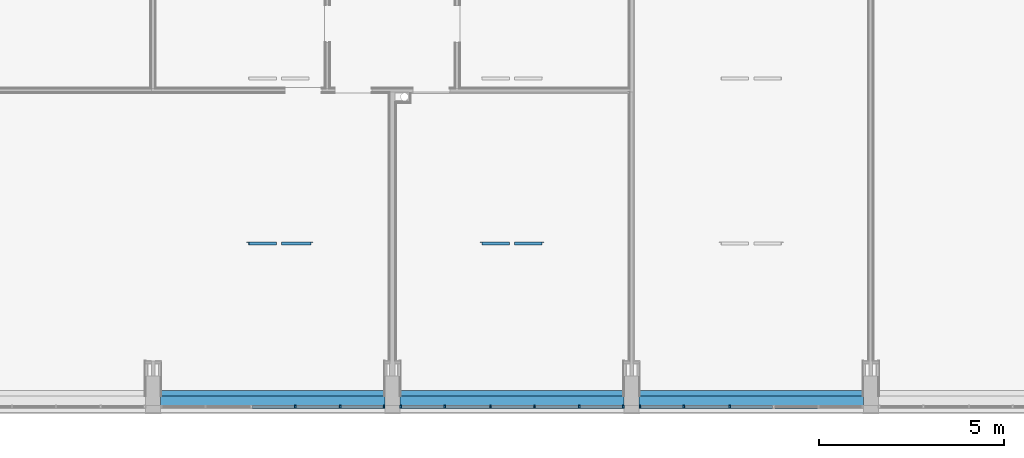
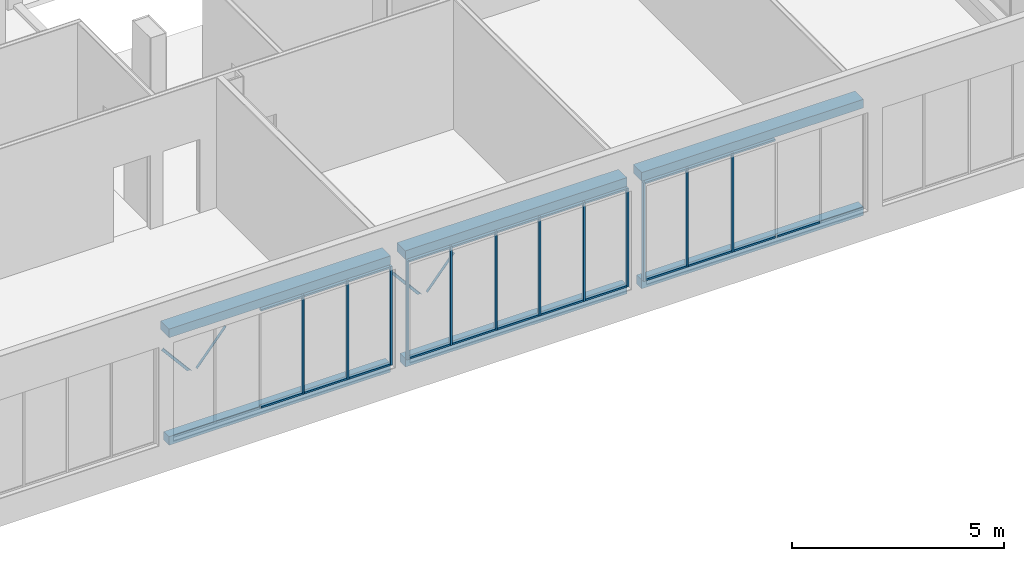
# One storey, part 7 of 29: 35 members, 10 beams, 3 elements without a shape of their own.
"""IFC2X3 building model written with IfcOpenShell, lengths in centimetres."""

from ifc_helpers import new_model, entity, si_unit, converted_unit, derived_unit, direction, frame, frame_2d, origin, origin_2d_with_axis, place, context, subcontext, project, spatial, polyline, circle_curve, parameter, trimmed, segment, composite_curve, rectangle, outline, extrude, clip, halfspace, source, transform, mapped, material, type_object, type_shapes, element, aggregate, save


model = new_model("IFC2X3")

# Units and contexts
model_context = context("Model", 3, precision=0.001, world=origin(), true_north=direction((6.12303176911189e-17, 1.0)))
body_context = subcontext(model_context, "Body", "Model", "MODEL_VIEW")
ifc_project = project(units=[si_unit("LENGTHUNIT", "METRE", prefix="CENTI"), si_unit("AREAUNIT", "SQUARE_METRE"), si_unit("VOLUMEUNIT", "CUBIC_METRE"), converted_unit("PLANEANGLEUNIT", "DEGREE", entity("IfcRatioMeasure", 0.0174532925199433), si_unit("PLANEANGLEUNIT", "RADIAN"), dimensions=[0, 0, 0, 0, 0, 0, 0]), si_unit("MASSUNIT", "GRAM", prefix="KILO"), derived_unit("MASSDENSITYUNIT", [(si_unit("MASSUNIT", "GRAM", prefix="KILO"), 1), (si_unit("LENGTHUNIT", "METRE"), -3)]), derived_unit("MOMENTOFINERTIAUNIT", [(si_unit("LENGTHUNIT", "METRE"), 4)]), si_unit("TIMEUNIT", "SECOND"), si_unit("FREQUENCYUNIT", "HERTZ"), si_unit("THERMODYNAMICTEMPERATUREUNIT", "DEGREE_CELSIUS"), derived_unit("THERMALTRANSMITTANCEUNIT", [(si_unit("MASSUNIT", "GRAM", prefix="KILO"), 1), (si_unit("THERMODYNAMICTEMPERATUREUNIT", "KELVIN"), -1), (si_unit("TIMEUNIT", "SECOND"), -3)]), derived_unit("VOLUMETRICFLOWRATEUNIT", [(si_unit("LENGTHUNIT", "METRE"), 3), (si_unit("TIMEUNIT", "SECOND"), -1)]), si_unit("ELECTRICCURRENTUNIT", "AMPERE"), si_unit("ELECTRICVOLTAGEUNIT", "VOLT"), si_unit("POWERUNIT", "WATT"), si_unit("FORCEUNIT", "NEWTON", prefix="KILO"), si_unit("ILLUMINANCEUNIT", "LUX"), si_unit("LUMINOUSFLUXUNIT", "LUMEN"), si_unit("LUMINOUSINTENSITYUNIT", "CANDELA"), derived_unit("USERDEFINED", [(si_unit("MASSUNIT", "GRAM", prefix="KILO"), -1), (si_unit("LENGTHUNIT", "METRE"), -2), (si_unit("TIMEUNIT", "SECOND"), 3), (si_unit("LUMINOUSFLUXUNIT", "LUMEN"), 1)]), derived_unit("LINEARVELOCITYUNIT", [(si_unit("LENGTHUNIT", "METRE"), 1), (si_unit("TIMEUNIT", "SECOND"), -1)]), si_unit("PRESSUREUNIT", "PASCAL"), derived_unit("USERDEFINED", [(si_unit("LENGTHUNIT", "METRE"), -2), (si_unit("MASSUNIT", "GRAM", prefix="KILO"), 1), (si_unit("TIMEUNIT", "SECOND"), -2)]), derived_unit("LINEARFORCEUNIT", [(si_unit("MASSUNIT", "GRAM", prefix="KILO"), 1), (si_unit("LENGTHUNIT", "METRE"), 1), (si_unit("TIMEUNIT", "SECOND"), -2), (si_unit("LENGTHUNIT", "METRE"), -1)]), derived_unit("PLANARFORCEUNIT", [(si_unit("MASSUNIT", "GRAM", prefix="KILO"), 1), (si_unit("LENGTHUNIT", "METRE"), 1), (si_unit("TIMEUNIT", "SECOND"), -2), (si_unit("LENGTHUNIT", "METRE"), -2)])], contexts=[model_context])

# Site, building, storey
site_placement = place(None, origin())
site = spatial("IfcSite", under=ifc_project, at=site_placement, Name="Default", CompositionType="ELEMENT")
building_placement = place(site_placement, origin())
building = spatial("IfcBuilding", under=site, at=building_placement, CompositionType="ELEMENT")
storey_placement = place(building_placement, frame((0.0, 0.0, 545.0)))
storey = spatial("IfcBuildingStorey", under=building, at=storey_placement, Name="Poziom 1K +5,45", CompositionType="ELEMENT", Elevation=544.999999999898)

# Beams
ifc_material_1 = material(Name="_Beton C30/37")
beam_type_1 = type_object("IfcBeamType", Name="Beton-belka prostokątna:BELKA 40x30", PredefinedType="NOTDEFINED")
beam_1_placement = place(storey_placement, frame((-1604.26510661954, 275.127657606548, 380.0)))
element("IfcBeam", 1, at=beam_1_placement, inside=storey, type_object=beam_type_1, material=ifc_material_1, Name="Beton-belka prostokątna:BELKA 40x30", ObjectType="Beton-belka prostokątna:BELKA 40x30", context=body_context, shape_type="SweptSolid", body=[
    extrude(rectangle(XDim=25.0000000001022, YDim=40.000000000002, at=frame_2d((0.0, 6.76791955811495e-13), x_axis=(1.0, 0.0))), frame((0.0, 0.0, -2.49999999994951), z_axis=(1.0, 0.0, 0.0), x_axis=(0.0, 0.0, -1.0)), (0.0, 0.0, 1.0), 605.000000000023),
])
beam_2_placement = place(storey_placement, frame((-959.265106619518, 275.127657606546, 380.0)))
element("IfcBeam", 2, at=beam_2_placement, inside=storey, type_object=beam_type_1, material=ifc_material_1, Name="Beton-belka prostokątna:BELKA 40x30", ObjectType="Beton-belka prostokątna:BELKA 40x30", context=body_context, shape_type="SweptSolid", body=[
    extrude(rectangle(XDim=25.0000000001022, YDim=40.0000000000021, at=frame_2d((0.0, 7.05213665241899e-13), x_axis=(1.0, 0.0))), frame((0.0, 0.0, -2.49999999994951), z_axis=(1.0, 0.0, 0.0), x_axis=(0.0, 0.0, -1.0)), (0.0, 0.0, 1.0), 604.999999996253),
])
beam_3_placement = place(storey_placement, frame((-314.265106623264, 275.127657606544, 380.0)))
element("IfcBeam", 3, at=beam_3_placement, inside=storey, type_object=beam_type_1, material=ifc_material_1, Name="Beton-belka prostokątna:BELKA 40x30", ObjectType="Beton-belka prostokątna:BELKA 40x30", context=body_context, shape_type="SweptSolid", body=[
    extrude(rectangle(XDim=25.0000000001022, YDim=40.0000000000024, at=frame_2d((0.0, 4.33431068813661e-13), x_axis=(1.0, 0.0))), frame((0.0, 0.0, -2.49999999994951), z_axis=(1.0, 0.0, 0.0), x_axis=(0.0, 0.0, -1.0)), (0.0, 0.0, 1.0), 605.000000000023),
])
beam_type_2 = type_object("IfcBeamType", Name="Beton-belka prostokątna:wieniec 25x25", PredefinedType="BEAM", material=ifc_material_1)
beam_4_placement = place(storey_placement, frame((-1604.26510661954, 267.627657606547, 0.0)))
element("IfcBeam", 4, at=beam_4_placement, inside=storey, type_object=beam_type_2, material=ifc_material_1, Name="Beton-belka prostokątna:wieniec 25x25", ObjectType="Beton-belka prostokątna:wieniec 25x25", context=body_context, shape_type="SweptSolid", body=[
    extrude(rectangle(XDim=24.9999999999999, YDim=25.0000000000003, at=frame_2d((0.0, 8.08242361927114e-14), x_axis=(1.0, 0.0))), frame((0.0, 0.0, 67.4999999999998), z_axis=(1.0, 0.0, 0.0), x_axis=(0.0, 0.0, -1.0)), (0.0, 0.0, 1.0), 604.999999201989),
])
beam_5_placement = place(storey_placement, frame((-959.265106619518, 267.627657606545, 0.0)))
element("IfcBeam", 5, at=beam_5_placement, inside=storey, type_object=beam_type_2, material=ifc_material_1, Name="Beton-belka prostokątna:wieniec 25x25", ObjectType="Beton-belka prostokątna:wieniec 25x25", context=body_context, shape_type="SweptSolid", body=[
    extrude(rectangle(XDim=24.9999999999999, YDim=25.0000000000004, at=frame_2d((0.0, 5.41788836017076e-14), x_axis=(1.0, 0.0))), frame((0.0, 0.0, 67.4999999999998), z_axis=(1.0, 0.0, 0.0), x_axis=(0.0, 0.0, -1.0)), (0.0, 0.0, 1.0), 604.999999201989),
])
beam_6_placement = place(storey_placement, frame((-314.265106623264, 267.627657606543, 0.0)))
element("IfcBeam", 6, at=beam_6_placement, inside=storey, type_object=beam_type_2, material=ifc_material_1, Name="Beton-belka prostokątna:wieniec 25x25", ObjectType="Beton-belka prostokątna:wieniec 25x25", context=body_context, shape_type="SweptSolid", body=[
    extrude(rectangle(XDim=24.9999999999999, YDim=25.0000000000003, at=frame_2d((0.0, 8.08242361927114e-14), x_axis=(1.0, 0.0))), frame((0.0, 0.0, 67.4999999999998), z_axis=(1.0, 0.0, 0.0), x_axis=(0.0, 0.0, -1.0)), (0.0, 0.0, 1.0), 604.999999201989),
])

# Curtain wall, members
curtain_wall_type = type_object("IfcCurtainWallType", PredefinedType="NOTDEFINED")
curtain_wall_1_placement = place(storey_placement, frame((0.0, 0.0, -545.0)))
curtain_wall_1 = element("IfcCurtainWall", 7, at=curtain_wall_1_placement, inside=storey, type_object=curtain_wall_type)
ifc_material_2 = material(Name="Aluminium")
member_type_1 = type_object("IfcMemberType", Name="Prostokątny szpros:50 x 80mm", PredefinedType="MULLION", material=ifc_material_2)
shared_shape_1 = source(origin(), body_context, "Body", "SweptSolid", [
    extrude(rectangle(XDim=8.0, YDim=5.0, at=origin_2d_with_axis()), frame((-2.5, 0.0, -113.500173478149), z_axis=(0.0, 0.0, 1.0), x_axis=(0.0, -1.0, 0.0)), (0.0, 0.0, 1.0), 113.500173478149),
])
type_shapes(member_type_1, [shared_shape_1])
member_1_placement = place(curtain_wall_1_placement, frame((-1004.26510741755, 251.127657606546, 910.0), z_axis=(1.0, 0.0, 0.0), x_axis=(0.0, 0.0, 1.0)))
member_1 = element("IfcMember", 8, at=member_1_placement, type_object=member_type_1, Name="Prostokątny szpros:50 x 80mm", ObjectType="Prostokątny szpros:50 x 80mm", context=body_context, shape_type="MappedRepresentation", body=[
    mapped(shared_shape_1, transform((0.0, 0.0, 0.0), scale=1.0)),
])
member_2_placement = place(curtain_wall_1_placement, frame((-1243.7622010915, 251.127657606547, 910.0), z_axis=(1.0, 0.0, 0.0), x_axis=(0.0, 0.0, 1.0)))
member_2 = element("IfcMember", 9, at=member_2_placement, type_object=member_type_1, Name="Prostokątny szpros:50 x 80mm", ObjectType="Prostokątny szpros:50 x 80mm", context=body_context, shape_type="MappedRepresentation", body=[
    mapped(shared_shape_1, transform((0.0, 0.0, 0.0), scale=1.0)),
])

curtain_wall_2_placement = place(storey_placement, frame((0.0, 0.0, -545.0)))
curtain_wall_2 = element("IfcCurtainWall", 10, at=curtain_wall_2_placement, inside=storey, type_object=curtain_wall_type)
member_3_placement = place(curtain_wall_2_placement, frame((-359.265107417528, 251.127657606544, 910.0), z_axis=(1.0, 0.0, 0.0), x_axis=(0.0, 0.0, 1.0)))
member_3 = element("IfcMember", 11, at=member_3_placement, type_object=member_type_1, Name="Prostokątny szpros:50 x 80mm", ObjectType="Prostokątny szpros:50 x 80mm", context=body_context, shape_type="MappedRepresentation", body=[
    mapped(shared_shape_1, transform((0.0, 0.0, 0.0), scale=1.0)),
])
member_4_placement = place(curtain_wall_2_placement, frame((-840.762201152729, 251.127657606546, 910.0), z_axis=(1.0, 0.0, 0.0), x_axis=(0.0, 0.0, 1.0)))
member_4 = element("IfcMember", 12, at=member_4_placement, type_object=member_type_1, Name="Prostokątny szpros:50 x 80mm", ObjectType="Prostokątny szpros:50 x 80mm", context=body_context, shape_type="MappedRepresentation", body=[
    mapped(shared_shape_1, transform((0.0, 0.0, 0.0), scale=1.0)),
])
member_5_placement = place(curtain_wall_2_placement, frame((-598.762214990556, 251.127657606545, 910.0), z_axis=(1.0, 0.0, 0.0), x_axis=(0.0, 0.0, 1.0)))
member_5 = element("IfcMember", 13, at=member_5_placement, type_object=member_type_1, Name="Prostokątny szpros:50 x 80mm", ObjectType="Prostokątny szpros:50 x 80mm", context=body_context, shape_type="MappedRepresentation", body=[
    mapped(shared_shape_1, transform((0.0, 0.0, 0.0), scale=1.0)),
])

curtain_wall_3_placement = place(storey_placement, frame((0.0, 0.0, -545.0)))
curtain_wall_3 = element("IfcCurtainWall", 14, at=curtain_wall_3_placement, inside=storey, type_object=curtain_wall_type)
member_6_placement = place(curtain_wall_3_placement, frame((-195.762201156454, 251.127657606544, 910.0), z_axis=(1.0, 0.0, 0.0), x_axis=(0.0, 0.0, 1.0)))
member_6 = element("IfcMember", 15, at=member_6_placement, type_object=member_type_1, Name="Prostokątny szpros:50 x 80mm", ObjectType="Prostokątny szpros:50 x 80mm", context=body_context, shape_type="MappedRepresentation", body=[
    mapped(shared_shape_1, transform((0.0, 0.0, 0.0), scale=1.0)),
])
member_7_placement = place(curtain_wall_3_placement, frame((46.2377850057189, 251.127657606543, 910.0), z_axis=(1.0, 0.0, 0.0), x_axis=(0.0, 0.0, 1.0)))
member_7 = element("IfcMember", 16, at=member_7_placement, type_object=member_type_1, Name="Prostokątny szpros:50 x 80mm", ObjectType="Prostokątny szpros:50 x 80mm", context=body_context, shape_type="MappedRepresentation", body=[
    mapped(shared_shape_1, transform((0.0, 0.0, 0.0), scale=1.0)),
])

# Member
member_type_2 = type_object("IfcMemberType", Name="Prostokątny szpros:50 x 80mm", PredefinedType="MULLION", material=ifc_material_2)
shared_shape_2 = source(origin(), body_context, "Body", "SweptSolid", [
    extrude(rectangle(XDim=8.0, YDim=5.0, at=origin_2d_with_axis()), frame((-2.5, 0.0, -113.500173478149), z_axis=(0.0, 0.0, 1.0), x_axis=(0.0, -1.0, 0.0)), (0.0, 0.0, 1.0), 113.500173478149),
])
type_shapes(member_type_2, [shared_shape_2])
member_8_placement = place(curtain_wall_1_placement, frame((-1357.26220817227, 251.127657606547, 625.0), z_axis=(-1.0, 0.0, 0.0), x_axis=(0.0, 0.0, -1.0)))
member_8 = element("IfcMember", 17, at=member_8_placement, type_object=member_type_2, Name="Prostokątny szpros:50 x 80mm", ObjectType="Prostokątny szpros:50 x 80mm", context=body_context, shape_type="MappedRepresentation", body=[
    mapped(shared_shape_2, transform((0.0, 0.0, 0.0), scale=1.0)),
])

member_9_placement = place(curtain_wall_1_placement, frame((-1117.76220109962, 251.127657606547, 625.0), z_axis=(-1.0, 0.0, 0.0), x_axis=(0.0, 0.0, -1.0)))
member_9 = element("IfcMember", 18, at=member_9_placement, type_object=member_type_2, Name="Prostokątny szpros:50 x 80mm", ObjectType="Prostokątny szpros:50 x 80mm", context=body_context, shape_type="MappedRepresentation", body=[
    mapped(shared_shape_2, transform((0.0, 0.0, 0.0), scale=1.0)),
])

member_10_placement = place(curtain_wall_2_placement, frame((-954.26512023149, 251.127657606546, 625.0), z_axis=(-1.0, 0.0, 0.0), x_axis=(0.0, 0.0, -1.0)))
member_10 = element("IfcMember", 19, at=member_10_placement, type_object=member_type_2, Name="Prostokątny szpros:50 x 80mm", ObjectType="Prostokątny szpros:50 x 80mm", context=body_context, shape_type="MappedRepresentation", body=[
    mapped(shared_shape_2, transform((0.0, 0.0, 0.0), scale=1.0)),
])

member_11_placement = place(curtain_wall_2_placement, frame((-712.262222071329, 251.127657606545, 625.0), z_axis=(-1.0, 0.0, 0.0), x_axis=(0.0, 0.0, -1.0)))
member_11 = element("IfcMember", 20, at=member_11_placement, type_object=member_type_2, Name="Prostokątny szpros:50 x 80mm", ObjectType="Prostokątny szpros:50 x 80mm", context=body_context, shape_type="MappedRepresentation", body=[
    mapped(shared_shape_2, transform((0.0, 0.0, 0.0), scale=1.0)),
])

member_12_placement = place(curtain_wall_2_placement, frame((-472.76221499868, 251.127657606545, 625.0), z_axis=(-1.0, 0.0, 0.0), x_axis=(0.0, 0.0, -1.0)))
member_12 = element("IfcMember", 21, at=member_12_placement, type_object=member_type_2, Name="Prostokątny szpros:50 x 80mm", ObjectType="Prostokątny szpros:50 x 80mm", context=body_context, shape_type="MappedRepresentation", body=[
    mapped(shared_shape_2, transform((0.0, 0.0, 0.0), scale=1.0)),
])

member_13_placement = place(curtain_wall_3_placement, frame((-309.265106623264, 251.127657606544, 625.0), z_axis=(-1.0, 0.0, 0.0), x_axis=(0.0, 0.0, -1.0)))
member_13 = element("IfcMember", 22, at=member_13_placement, type_object=member_type_2, Name="Prostokątny szpros:50 x 80mm", ObjectType="Prostokątny szpros:50 x 80mm", context=body_context, shape_type="MappedRepresentation", body=[
    mapped(shared_shape_2, transform((0.0, 0.0, 0.0), scale=1.0)),
])

member_14_placement = place(curtain_wall_3_placement, frame((-67.2622220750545, 251.127657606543, 625.0), z_axis=(-1.0, 0.0, 0.0), x_axis=(0.0, 0.0, -1.0)))
member_14 = element("IfcMember", 23, at=member_14_placement, type_object=member_type_2, Name="Prostokątny szpros:50 x 80mm", ObjectType="Prostokątny szpros:50 x 80mm", context=body_context, shape_type="MappedRepresentation", body=[
    mapped(shared_shape_2, transform((0.0, 0.0, 0.0), scale=1.0)),
])

member_type_3 = type_object("IfcMemberType", Name="Prostokątny szpros:50 x 80mm", PredefinedType="MULLION", material=ifc_material_2)
shared_shape_3 = source(origin(), body_context, "Body", "SweptSolid", [
    extrude(rectangle(XDim=8.0, YDim=5.0, at=origin_2d_with_axis()), frame((-2.5, 0.0, -116.002333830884), z_axis=(0.0, 0.0, 1.0), x_axis=(0.0, -1.0, 0.0)), (0.0, 0.0, 1.0), 116.002333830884),
])
type_shapes(member_type_3, [shared_shape_3])
member_15_placement = place(curtain_wall_1_placement, frame((-1238.7622010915, 251.127657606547, 625.0), z_axis=(-1.0, 0.0, 0.0), x_axis=(0.0, 0.0, -1.0)))
member_15 = element("IfcMember", 24, at=member_15_placement, type_object=member_type_3, Name="Prostokątny szpros:50 x 80mm", ObjectType="Prostokątny szpros:50 x 80mm", context=body_context, shape_type="MappedRepresentation", body=[
    mapped(shared_shape_3, transform((0.0, 0.0, 0.0), scale=1.0)),
])

member_16_placement = place(curtain_wall_2_placement, frame((-593.762214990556, 251.127657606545, 625.0), z_axis=(-1.0, 0.0, 0.0), x_axis=(0.0, 0.0, -1.0)))
member_16 = element("IfcMember", 25, at=member_16_placement, type_object=member_type_3, Name="Prostokątny szpros:50 x 80mm", ObjectType="Prostokątny szpros:50 x 80mm", context=body_context, shape_type="MappedRepresentation", body=[
    mapped(shared_shape_3, transform((0.0, 0.0, 0.0), scale=1.0)),
])

member_17_placement = place(curtain_wall_3_placement, frame((51.2377850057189, 251.127657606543, 625.0), z_axis=(-1.0, 0.0, 0.0), x_axis=(0.0, 0.0, -1.0)))
member_17 = element("IfcMember", 26, at=member_17_placement, type_object=member_type_3, Name="Prostokątny szpros:50 x 80mm", ObjectType="Prostokątny szpros:50 x 80mm", context=body_context, shape_type="MappedRepresentation", body=[
    mapped(shared_shape_3, transform((0.0, 0.0, 0.0), scale=1.0)),
])

member_type_4 = type_object("IfcMemberType", Name="Prostokątny szpros:50 x 80mm", PredefinedType="MULLION", material=ifc_material_2)
shared_shape_4 = source(origin(), body_context, "Body", "SweptSolid", [
    extrude(rectangle(XDim=8.0, YDim=5.0, at=origin_2d_with_axis()), frame((-2.5, 0.0, -116.002333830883), z_axis=(0.0, 0.0, 1.0), x_axis=(0.0, -1.0, 0.0)), (0.0, 0.0, 1.0), 116.002333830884),
])
type_shapes(member_type_4, [shared_shape_4])
member_18_placement = place(curtain_wall_1_placement, frame((-1122.76220109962, 251.127657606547, 910.0), z_axis=(1.0, 0.0, 0.0), x_axis=(0.0, 0.0, 1.0)))
member_18 = element("IfcMember", 27, at=member_18_placement, type_object=member_type_4, Name="Prostokątny szpros:50 x 80mm", ObjectType="Prostokątny szpros:50 x 80mm", context=body_context, shape_type="MappedRepresentation", body=[
    mapped(shared_shape_4, transform((0.0, 0.0, 0.0), scale=1.0)),
])

member_19_placement = place(curtain_wall_2_placement, frame((-477.76221499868, 251.127657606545, 910.0), z_axis=(1.0, 0.0, 0.0), x_axis=(0.0, 0.0, 1.0)))
member_19 = element("IfcMember", 28, at=member_19_placement, type_object=member_type_4, Name="Prostokątny szpros:50 x 80mm", ObjectType="Prostokątny szpros:50 x 80mm", context=body_context, shape_type="MappedRepresentation", body=[
    mapped(shared_shape_4, transform((0.0, 0.0, 0.0), scale=1.0)),
])

member_type_5 = type_object("IfcMemberType", Name="Prostokątny szpros:50 x 80mm", PredefinedType="MULLION", material=ifc_material_2)
shared_shape_5 = source(origin(), body_context, "Body", "SweptSolid", [
    extrude(rectangle(XDim=8.0, YDim=5.0, at=origin_2d_with_axis()), frame((-2.5, 0.0, -118.4999790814), z_axis=(0.0, 0.0, 1.0), x_axis=(0.0, -1.0, 0.0)), (0.0, 0.0, 1.0), 118.499979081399),
])
type_shapes(member_type_5, [shared_shape_5])
member_20_placement = place(curtain_wall_2_placement, frame((-717.262222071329, 251.127657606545, 910.0), z_axis=(1.0, 0.0, 0.0), x_axis=(0.0, 0.0, 1.0)))
member_20 = element("IfcMember", 29, at=member_20_placement, type_object=member_type_5, Name="Prostokątny szpros:50 x 80mm", ObjectType="Prostokątny szpros:50 x 80mm", context=body_context, shape_type="MappedRepresentation", body=[
    mapped(shared_shape_5, transform((0.0, 0.0, 0.0), scale=1.0)),
])

member_21_placement = place(curtain_wall_3_placement, frame((-72.2622220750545, 251.127657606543, 910.0), z_axis=(1.0, 0.0, 0.0), x_axis=(0.0, 0.0, 1.0)))
member_21 = element("IfcMember", 30, at=member_21_placement, type_object=member_type_5, Name="Prostokątny szpros:50 x 80mm", ObjectType="Prostokątny szpros:50 x 80mm", context=body_context, shape_type="MappedRepresentation", body=[
    mapped(shared_shape_5, transform((0.0, 0.0, 0.0), scale=1.0)),
])

member_type_6 = type_object("IfcMemberType", Name="Prostokątny szpros:50 x 80mm", PredefinedType="MULLION", material=ifc_material_2)
shared_shape_6 = source(origin(), body_context, "Body", "SweptSolid", [
    extrude(rectangle(XDim=8.0, YDim=5.0, at=origin_2d_with_axis()), frame((-2.5, 0.0, -118.4999790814), z_axis=(0.0, 0.0, 1.0), x_axis=(0.0, -1.0, 0.0)), (0.0, 0.0, 1.0), 118.499979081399),
])
type_shapes(member_type_6, [shared_shape_6])
member_22_placement = place(curtain_wall_2_placement, frame((-835.762201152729, 251.127657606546, 625.0), z_axis=(-1.0, 0.0, 0.0), x_axis=(0.0, 0.0, -1.0)))
member_22 = element("IfcMember", 31, at=member_22_placement, type_object=member_type_6, Name="Prostokątny szpros:50 x 80mm", ObjectType="Prostokątny szpros:50 x 80mm", context=body_context, shape_type="MappedRepresentation", body=[
    mapped(shared_shape_6, transform((0.0, 0.0, 0.0), scale=1.0)),
])

member_23_placement = place(curtain_wall_3_placement, frame((-190.762201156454, 251.127657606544, 625.0), z_axis=(-1.0, 0.0, 0.0), x_axis=(0.0, 0.0, -1.0)))
member_23 = element("IfcMember", 32, at=member_23_placement, type_object=member_type_6, Name="Prostokątny szpros:50 x 80mm", ObjectType="Prostokątny szpros:50 x 80mm", context=body_context, shape_type="MappedRepresentation", body=[
    mapped(shared_shape_6, transform((0.0, 0.0, 0.0), scale=1.0)),
])

member_type_7 = type_object("IfcMemberType", Name="Prostokątny szpros:50 x 80mm", PredefinedType="MULLION", material=ifc_material_2)
shared_shape_7 = source(origin(), body_context, "Body", "SweptSolid", [
    extrude(rectangle(XDim=8.0, YDim=5.0, at=origin_2d_with_axis()), frame((-2.5, 0.0, -285.0), z_axis=(0.0, 0.0, 1.0), x_axis=(0.0, -1.0, 0.0)), (0.0, 0.0, 1.0), 284.99999999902),
])
type_shapes(member_type_7, [shared_shape_7])
member_24_placement = place(curtain_wall_1_placement, frame((-999.265107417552, 251.127657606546, 625.0), z_axis=(0.0, 0.0, -1.0), x_axis=(1.0, 0.0, 0.0)))
member_24 = element("IfcMember", 33, at=member_24_placement, type_object=member_type_7, Name="Prostokątny szpros:50 x 80mm", ObjectType="Prostokątny szpros:50 x 80mm", context=body_context, shape_type="MappedRepresentation", body=[
    mapped(shared_shape_7, transform((0.0, 0.0, 0.0), scale=1.0)),
])

member_25_placement = place(curtain_wall_2_placement, frame((-354.265107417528, 251.127657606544, 625.0), z_axis=(0.0, 0.0, -1.0), x_axis=(1.0, 0.0, 0.0)))
member_25 = element("IfcMember", 34, at=member_25_placement, type_object=member_type_7, Name="Prostokątny szpros:50 x 80mm", ObjectType="Prostokątny szpros:50 x 80mm", context=body_context, shape_type="MappedRepresentation", body=[
    mapped(shared_shape_7, transform((0.0, 0.0, 0.0), scale=1.0)),
])

member_type_8 = type_object("IfcMemberType", Name="Prostokątny szpros:50 x 80mm", PredefinedType="MULLION", material=ifc_material_2)
shared_shape_8 = source(origin(), body_context, "Body", "SweptSolid", [
    extrude(rectangle(XDim=8.0, YDim=5.0, at=origin_2d_with_axis()), frame((-2.5, 0.0, -285.0), z_axis=(0.0, 0.0, 1.0), x_axis=(0.0, -1.0, 0.0)), (0.0, 0.0, 1.0), 284.99999999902),
])
type_shapes(member_type_8, [shared_shape_8])
member_26_placement = place(curtain_wall_2_placement, frame((-959.26512023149, 251.127657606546, 910.0), z_axis=(0.0, 0.0, 1.0), x_axis=(-1.0, 0.0, 0.0)))
member_26 = element("IfcMember", 35, at=member_26_placement, type_object=member_type_8, Name="Prostokątny szpros:50 x 80mm", ObjectType="Prostokątny szpros:50 x 80mm", context=body_context, shape_type="MappedRepresentation", body=[
    mapped(shared_shape_8, transform((0.0, 0.0, 0.0), scale=1.0)),
])

member_27_placement = place(curtain_wall_3_placement, frame((-314.265106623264, 251.127657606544, 910.0), z_axis=(0.0, 0.0, 1.0), x_axis=(-1.0, 0.0, 0.0)))
member_27 = element("IfcMember", 36, at=member_27_placement, type_object=member_type_8, Name="Prostokątny szpros:50 x 80mm", ObjectType="Prostokątny szpros:50 x 80mm", context=body_context, shape_type="MappedRepresentation", body=[
    mapped(shared_shape_8, transform((0.0, 0.0, 0.0), scale=1.0)),
])

member_type_9 = type_object("IfcMemberType", Name="Prostokątny szpros:50 x 80mm", PredefinedType="MULLION", material=ifc_material_2)
shared_shape_9 = source(origin(), body_context, "Body", "SweptSolid", [
    extrude(rectangle(XDim=8.0, YDim=5.0, at=origin_2d_with_axis()), frame((0.0, 0.0, -285.0), z_axis=(0.0, 0.0, 1.0), x_axis=(0.0, -1.0, 0.0)), (0.0, 0.0, 1.0), 284.99999999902),
])
type_shapes(member_type_9, [shared_shape_9])
member_28_placement = place(curtain_wall_1_placement, frame((-1241.2622010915, 251.127657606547, 625.0), z_axis=(0.0, 0.0, -1.0), x_axis=(1.0, 0.0, 0.0)))
member_28 = element("IfcMember", 37, at=member_28_placement, type_object=member_type_9, Name="Prostokątny szpros:50 x 80mm", ObjectType="Prostokątny szpros:50 x 80mm", context=body_context, shape_type="MappedRepresentation", body=[
    mapped(shared_shape_9, transform((0.0, 0.0, 0.0), scale=1.0)),
])

member_29_placement = place(curtain_wall_1_placement, frame((-1120.26220109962, 251.127657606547, 625.0), z_axis=(0.0, 0.0, -1.0), x_axis=(1.0, 0.0, 0.0)))
member_29 = element("IfcMember", 38, at=member_29_placement, type_object=member_type_9, Name="Prostokątny szpros:50 x 80mm", ObjectType="Prostokątny szpros:50 x 80mm", context=body_context, shape_type="MappedRepresentation", body=[
    mapped(shared_shape_9, transform((0.0, 0.0, 0.0), scale=1.0)),
])

aggregate(curtain_wall_1, [member_1, member_24, member_8, member_2, member_15, member_28, member_18, member_9, member_29])

member_30_placement = place(curtain_wall_2_placement, frame((-838.262201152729, 251.127657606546, 625.0), z_axis=(0.0, 0.0, -1.0), x_axis=(1.0, 0.0, 0.0)))
member_30 = element("IfcMember", 39, at=member_30_placement, type_object=member_type_9, Name="Prostokątny szpros:50 x 80mm", ObjectType="Prostokątny szpros:50 x 80mm", context=body_context, shape_type="MappedRepresentation", body=[
    mapped(shared_shape_9, transform((0.0, 0.0, 0.0), scale=1.0)),
])

member_31_placement = place(curtain_wall_2_placement, frame((-714.762222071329, 251.127657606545, 625.0), z_axis=(0.0, 0.0, -1.0), x_axis=(1.0, 0.0, 0.0)))
member_31 = element("IfcMember", 40, at=member_31_placement, type_object=member_type_9, Name="Prostokątny szpros:50 x 80mm", ObjectType="Prostokątny szpros:50 x 80mm", context=body_context, shape_type="MappedRepresentation", body=[
    mapped(shared_shape_9, transform((0.0, 0.0, 0.0), scale=1.0)),
])

member_32_placement = place(curtain_wall_2_placement, frame((-596.262214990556, 251.127657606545, 625.0), z_axis=(0.0, 0.0, -1.0), x_axis=(1.0, 0.0, 0.0)))
member_32 = element("IfcMember", 41, at=member_32_placement, type_object=member_type_9, Name="Prostokątny szpros:50 x 80mm", ObjectType="Prostokątny szpros:50 x 80mm", context=body_context, shape_type="MappedRepresentation", body=[
    mapped(shared_shape_9, transform((0.0, 0.0, 0.0), scale=1.0)),
])

member_33_placement = place(curtain_wall_2_placement, frame((-475.26221499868, 251.127657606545, 625.0), z_axis=(0.0, 0.0, -1.0), x_axis=(1.0, 0.0, 0.0)))
member_33 = element("IfcMember", 42, at=member_33_placement, type_object=member_type_9, Name="Prostokątny szpros:50 x 80mm", ObjectType="Prostokątny szpros:50 x 80mm", context=body_context, shape_type="MappedRepresentation", body=[
    mapped(shared_shape_9, transform((0.0, 0.0, 0.0), scale=1.0)),
])

aggregate(curtain_wall_2, [member_3, member_10, member_25, member_26, member_4, member_22, member_30, member_20, member_11, member_31, member_5, member_16, member_32, member_19, member_12, member_33])

member_34_placement = place(curtain_wall_3_placement, frame((-193.262201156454, 251.127657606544, 625.0), z_axis=(0.0, 0.0, -1.0), x_axis=(1.0, 0.0, 0.0)))
member_34 = element("IfcMember", 43, at=member_34_placement, type_object=member_type_9, Name="Prostokątny szpros:50 x 80mm", ObjectType="Prostokątny szpros:50 x 80mm", context=body_context, shape_type="MappedRepresentation", body=[
    mapped(shared_shape_9, transform((0.0, 0.0, 0.0), scale=1.0)),
])

member_35_placement = place(curtain_wall_3_placement, frame((-69.7622220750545, 251.127657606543, 625.0), z_axis=(0.0, 0.0, -1.0), x_axis=(1.0, 0.0, 0.0)))
member_35 = element("IfcMember", 44, at=member_35_placement, type_object=member_type_9, Name="Prostokątny szpros:50 x 80mm", ObjectType="Prostokątny szpros:50 x 80mm", context=body_context, shape_type="MappedRepresentation", body=[
    mapped(shared_shape_9, transform((0.0, 0.0, 0.0), scale=1.0)),
])

aggregate(curtain_wall_3, [member_13, member_27, member_6, member_23, member_34, member_21, member_14, member_35, member_7, member_17])

# Beams
ifc_material_3 = material(Name="Stal konstrukcyjna - S235")
beam_type_3 = type_object("IfcBeamType", Name="Równoramienne L:L80x8", PredefinedType="NOTDEFINED")
beam_7_placement = place(storey_placement, frame((-575.99669029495, 692.86751237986, -13.5446969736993), z_axis=(0.765076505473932, 0.0, -0.64393939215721), x_axis=(-0.64393939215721, 0.0, -0.765076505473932)))
element("IfcBeam", 45, at=beam_7_placement, inside=storey, type_object=beam_type_3, material=ifc_material_3, Name="Równoramienne L:L80x8", ObjectType="Równoramienne L:L80x8", context=body_context, shape_type="SweptSolid", body=[
    clip(extrude(outline(composite_curve([segment(polyline([(2.72222222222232, -4.97777777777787), (3.02222222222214, -4.97777777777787)]), True, "CONTINUOUS"), segment(polyline([(3.02222222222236, -4.97777777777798), (3.02222222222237, 3.02222222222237)]), True, "CONTINUOUS"), segment(polyline([(3.02222222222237, 3.02222222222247), (-4.97777777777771, 3.02222222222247)]), True, "CONTINUOUS"), segment(polyline([(-4.97777777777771, 3.02222222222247), (-4.97777777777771, 2.72222222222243)]), True, "CONTINUOUS"), segment(trimmed(circle_curve(frame_2d((-4.47777777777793, 2.72222222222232), x_axis=(-1.0, 0.0)), 0.499999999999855), [parameter(0.0)], [parameter(90.00000000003)], True, "PARAMETER"), True, "CONTINUOUS"), segment(polyline([(-4.47777777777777, 2.22222222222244), (1.22222222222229, 2.22222222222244)]), True, "CONTINUOUS"), segment(trimmed(circle_curve(frame_2d((1.22222222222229, 1.22222222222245), x_axis=(0.0, 1.0)), 1.00000000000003), [parameter(270.0)], [parameter(0.0)], True, "PARAMETER"), False, "CONTINUOUS"), segment(polyline([(2.22222222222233, 1.22222222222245), (2.22222222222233, -4.47777777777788)]), True, "CONTINUOUS"), segment(trimmed(circle_curve(frame_2d((2.72222222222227, -4.47777777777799), x_axis=(-1.0, 0.0)), 0.499999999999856), [parameter(0.0)], [parameter(90.0000000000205)], True, "PARAMETER"), True, "CONTINUOUS")], self_intersect=False)), frame((0.00135307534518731, -0.76222222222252, 3.02222222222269), z_axis=(1.0, 0.0, 0.0), x_axis=(0.0, 0.0, -1.0)), (0.0, 0.0, 1.0), 114.45), halfspace(frame((109.986095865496, -399.74006030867, 8.24227437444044), z_axis=(0.765076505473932, 0.0, 0.64393939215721), x_axis=(0.0, 1.0, 0.0)), False)),
])
beam_8_placement = place(storey_placement, frame((-737.533508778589, 692.86751237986, -13.5446969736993), z_axis=(0.765076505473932, 0.0, 0.64393939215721), x_axis=(0.64393939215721, 0.0, -0.765076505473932)))
element("IfcBeam", 46, at=beam_8_placement, inside=storey, type_object=beam_type_3, material=ifc_material_3, Name="Równoramienne L:L80x8", ObjectType="Równoramienne L:L80x8", context=body_context, shape_type="SweptSolid", body=[
    clip(extrude(outline(composite_curve([segment(polyline([(-3.02222222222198, -4.97777777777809), (-2.72222222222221, -4.97777777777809)]), True, "CONTINUOUS"), segment(trimmed(circle_curve(frame_2d((-2.72222222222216, -4.4777777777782), x_axis=(0.0, -1.0)), 0.499999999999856), [parameter(0.0)], [parameter(90.0000000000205)], True, "PARAMETER"), True, "CONTINUOUS"), segment(polyline([(-2.22222222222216, -4.47777777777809), (-2.22222222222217, 1.22222222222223)]), True, "CONTINUOUS"), segment(trimmed(circle_curve(frame_2d((-1.22222222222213, 1.22222222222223), x_axis=(-1.0, 0.0)), 1.00000000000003), [parameter(270.0)], [parameter(0.0)], True, "PARAMETER"), False, "CONTINUOUS"), segment(polyline([(-1.22222222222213, 2.22222222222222), (4.47777777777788, 2.22222222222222)]), True, "CONTINUOUS"), segment(trimmed(circle_curve(frame_2d((4.47777777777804, 2.72222222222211), x_axis=(0.0, -1.0)), 0.499999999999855), [parameter(0.0)], [parameter(90.00000000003)], True, "PARAMETER"), True, "CONTINUOUS"), segment(polyline([(4.97777777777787, 2.72222222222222), (4.97777777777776, 3.02222222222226)]), True, "CONTINUOUS"), segment(polyline([(4.97777777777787, 3.02222222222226), (-3.02222222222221, 3.02222222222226)]), True, "CONTINUOUS"), segment(polyline([(-3.02222222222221, 3.02222222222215), (-3.0222222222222, -4.9777777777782)]), True, "CONTINUOUS")], self_intersect=False)), frame((0.00135307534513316, -0.762222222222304, -3.02222222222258), z_axis=(1.0, 0.0, 0.0), x_axis=(0.0, 0.0, -1.0)), (0.0, 0.0, 1.0), 114.45), halfspace(frame((117.713368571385, -399.74006030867, 0.938643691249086), z_axis=(0.765076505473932, 0.0, -0.64393939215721), x_axis=(0.0, 1.0, 0.0)), False)),
])
beam_9_placement = place(storey_placement, frame((-1366.03261912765, 692.867512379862, -13.5446969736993), z_axis=(0.765076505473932, 0.0, 0.64393939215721), x_axis=(0.64393939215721, 0.0, -0.765076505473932)))
element("IfcBeam", 47, at=beam_9_placement, inside=storey, type_object=beam_type_3, material=ifc_material_3, Name="Równoramienne L:L80x8", ObjectType="Równoramienne L:L80x8", context=body_context, shape_type="SweptSolid", body=[
    clip(extrude(outline(composite_curve([segment(polyline([(-3.02222222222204, -4.97777777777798), (-2.72222222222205, -4.97777777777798)]), True, "CONTINUOUS"), segment(trimmed(circle_curve(frame_2d((-2.72222222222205, -4.47777777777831), x_axis=(0.0, -1.0)), 0.499999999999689), [parameter(0.0)], [parameter(90.0000000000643)], True, "PARAMETER"), True, "CONTINUOUS"), segment(polyline([(-2.22222222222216, -4.47777777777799), (-2.22222222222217, 1.22222222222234)]), True, "CONTINUOUS"), segment(trimmed(circle_curve(frame_2d((-1.22222222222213, 1.22222222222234), x_axis=(-1.0, 0.0)), 0.999999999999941), [parameter(270.0)], [parameter(0.0)], True, "PARAMETER"), False, "CONTINUOUS"), segment(polyline([(-1.22222222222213, 2.22222222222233), (4.47777777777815, 2.22222222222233)]), True, "CONTINUOUS"), segment(trimmed(circle_curve(frame_2d((4.47777777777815, 2.722222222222), x_axis=(0.0, -1.0)), 0.499999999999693), [parameter(0.0)], [parameter(90.0000000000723)], True, "PARAMETER"), True, "CONTINUOUS"), segment(polyline([(4.97777777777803, 2.72222222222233), (4.97777777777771, 3.02222222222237)]), True, "CONTINUOUS"), segment(polyline([(4.97777777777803, 3.02222222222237), (-3.02222222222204, 3.02222222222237)]), True, "CONTINUOUS"), segment(polyline([(-3.02222222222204, 3.02222222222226), (-3.02222222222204, -4.97777777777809)]), True, "CONTINUOUS")], self_intersect=False)), frame((0.00135307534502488, -0.762222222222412, -3.02222222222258), z_axis=(1.0, 0.0, 0.0), x_axis=(0.0, 0.0, -1.0)), (0.0, 0.0, 1.0), 114.44), halfspace(frame((117.712807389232, -399.74006030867, 0.937976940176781), z_axis=(0.765076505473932, 0.0, -0.64393939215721), x_axis=(0.0, 1.0, 0.0)), False)),
])
beam_10_placement = place(storey_placement, frame((-1204.49754360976, 692.867512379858, -13.5446969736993), z_axis=(0.765076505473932, 0.0, -0.64393939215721), x_axis=(-0.64393939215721, 0.0, -0.765076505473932)))
element("IfcBeam", 48, at=beam_10_placement, inside=storey, type_object=beam_type_3, material=ifc_material_3, Name="Równoramienne L:L80x8", ObjectType="Równoramienne L:L80x8", context=body_context, shape_type="SweptSolid", body=[
    clip(extrude(outline(composite_curve([segment(polyline([(2.72222222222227, -4.97777777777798), (3.02222222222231, -4.97777777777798)]), True, "CONTINUOUS"), segment(polyline([(3.02222222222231, -4.97777777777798), (3.02222222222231, 3.02222222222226)]), True, "CONTINUOUS"), segment(polyline([(3.02222222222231, 3.02222222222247), (-4.97777777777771, 3.02222222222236)]), True, "CONTINUOUS"), segment(polyline([(-4.97777777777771, 3.02222222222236), (-4.97777777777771, 2.72222222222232)]), True, "CONTINUOUS"), segment(trimmed(circle_curve(frame_2d((-4.47777777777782, 2.722222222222), x_axis=(-1.0, 0.0)), 0.499999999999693), [parameter(0.0)], [parameter(90.0000000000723)], True, "PARAMETER"), True, "CONTINUOUS"), segment(polyline([(-4.47777777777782, 2.22222222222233), (1.22222222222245, 2.22222222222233)]), True, "CONTINUOUS"), segment(trimmed(circle_curve(frame_2d((1.22222222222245, 1.22222222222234), x_axis=(0.0, 1.0)), 0.999999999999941), [parameter(270.0)], [parameter(0.0)], True, "PARAMETER"), False, "CONTINUOUS"), segment(polyline([(2.22222222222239, 1.22222222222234), (2.22222222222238, -4.47777777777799)]), True, "CONTINUOUS"), segment(trimmed(circle_curve(frame_2d((2.72222222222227, -4.4777777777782), x_axis=(-1.0, 0.0)), 0.499999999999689), [parameter(0.0)], [parameter(90.0000000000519)], True, "PARAMETER"), True, "CONTINUOUS")], self_intersect=False)), frame((-7.998646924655, -0.762222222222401, 3.02222222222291), z_axis=(1.0, 0.0, 0.0), x_axis=(0.0, 0.0, -1.0)), (0.0, 0.0, 1.0), 122.44), halfspace(frame((109.985534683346, -399.739854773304, 8.24294112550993), z_axis=(0.765076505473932, 0.0, 0.64393939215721), x_axis=(0.0, 1.0, 0.0)), False)),
])

save(model, "model.ifc")
